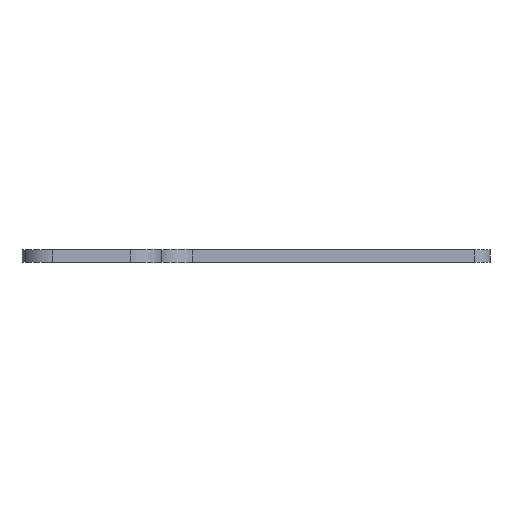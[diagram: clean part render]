
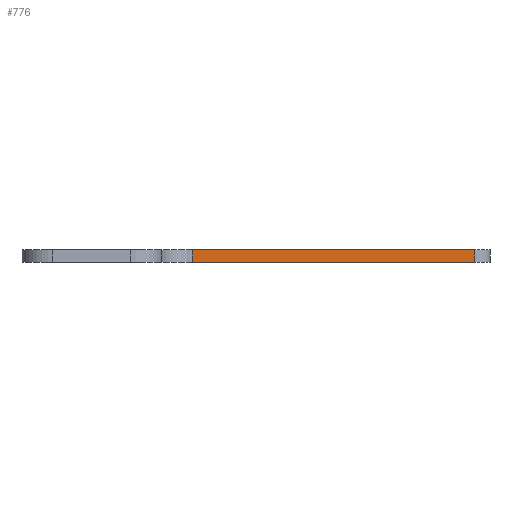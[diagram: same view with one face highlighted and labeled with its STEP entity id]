
A CAD part, left-side view. The second image highlights one B-rep face of the part: STEP entity #776.
In plain terms, the highlighted planar face has unit normal (-1, 0, 0).
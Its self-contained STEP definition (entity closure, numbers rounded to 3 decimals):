
#36=PLANE('',#885);
#65=FACE_OUTER_BOUND('',#113,.T.);
#113=EDGE_LOOP('',(#668,#669,#670,#671));
#135=LINE('',#1174,#203);
#174=LINE('',#1304,#242);
#183=LINE('',#1345,#251);
#184=LINE('',#1347,#252);
#203=VECTOR('',#927,10.);
#242=VECTOR('',#1054,10.);
#251=VECTOR('',#1099,10.);
#252=VECTOR('',#1102,10.);
#323=VERTEX_POINT('',#1171);
#324=VERTEX_POINT('',#1173);
#370=VERTEX_POINT('',#1301);
#371=VERTEX_POINT('',#1303);
#400=EDGE_CURVE('',#323,#324,#135,.T.);
#466=EDGE_CURVE('',#370,#371,#174,.T.);
#487=EDGE_CURVE('',#324,#370,#183,.T.);
#488=EDGE_CURVE('',#323,#371,#184,.T.);
#668=ORIENTED_EDGE('',*,*,#487,.F.);
#669=ORIENTED_EDGE('',*,*,#400,.F.);
#670=ORIENTED_EDGE('',*,*,#488,.T.);
#671=ORIENTED_EDGE('',*,*,#466,.F.);
#776=ADVANCED_FACE('',(#65),#36,.T.);
#885=AXIS2_PLACEMENT_3D('',#1346,#1100,#1101);
#927=DIRECTION('',(0.,1.,0.));
#1054=DIRECTION('',(0.,-1.,0.));
#1099=DIRECTION('',(0.,0.,1.));
#1100=DIRECTION('center_axis',(-1.,0.,0.));
#1101=DIRECTION('ref_axis',(0.,0.,1.));
#1102=DIRECTION('',(0.,0.,1.));
#1171=CARTESIAN_POINT('',(0.,5.,0.));
#1173=CARTESIAN_POINT('',(0.,96.,0.));
#1174=CARTESIAN_POINT('',(0.,82.567,0.));
#1301=CARTESIAN_POINT('',(0.,96.,4.));
#1303=CARTESIAN_POINT('',(0.,5.,4.));
#1304=CARTESIAN_POINT('',(0.,82.567,4.));
#1345=CARTESIAN_POINT('',(0.,96.,0.));
#1346=CARTESIAN_POINT('Origin',(0.,5.,0.));
#1347=CARTESIAN_POINT('',(0.,5.,0.));
